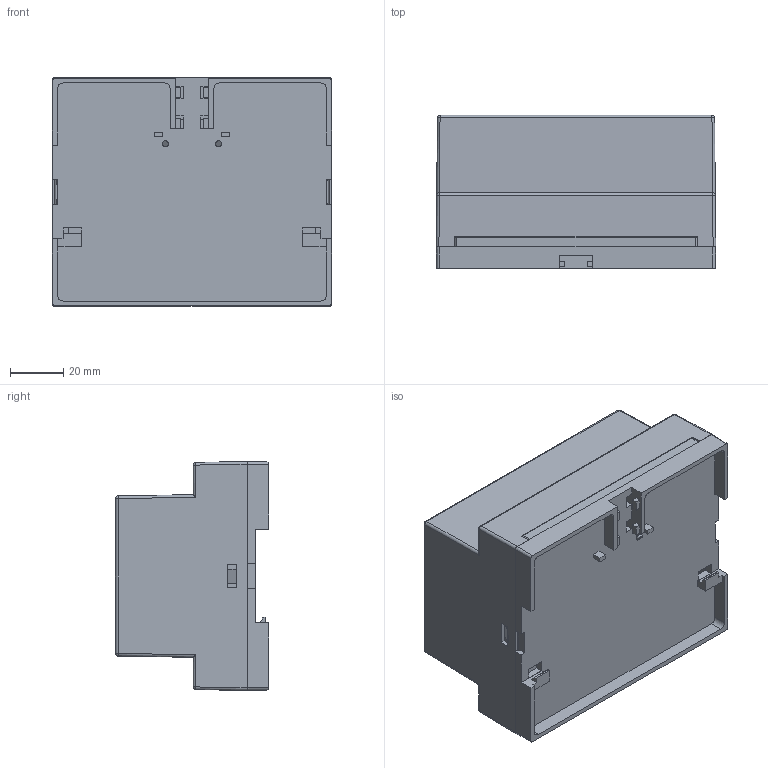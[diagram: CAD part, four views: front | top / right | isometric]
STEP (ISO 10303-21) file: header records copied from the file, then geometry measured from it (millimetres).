
FILE_DESCRIPTION (( 'STEP AP203' ), '1' );
FILE_NAME ('PT106-A.STEP', '2022-02-01T11:28:04', ( '' ), ( '' ), 'SwSTEP 2.0', 'SolidWorks 2021', '' );
FILE_SCHEMA (( 'CONFIG_CONTROL_DESIGN' ));
Length unit declared in the file: millimetre
Products named in the file (4): PT106-A
Assembly tree (3 placements, depth 2):
  PT106-A
    PT106-A
    PT106-A
    PT106-A
Bounding box: 105.1 x 57.6 x 86.1 mm (x, y, z)
Volume: 76612.6 mm3; surface area: 81049.9 mm2
Topology: 3 solids, 3 shells, 469 faces, 1314 edges, 856 vertices
Faces by surface type: plane 337, cylinder 50, bspline 38, cone 36, sphere 8
Entity records: 15928 total; most frequent: CARTESIAN_POINT 3609, ORIENTED_EDGE 2612, DIRECTION 2284, EDGE_CURVE 1306, LINE 1054, VECTOR 1054, VERTEX_POINT 856, AXIS2_PLACEMENT_3D 615
